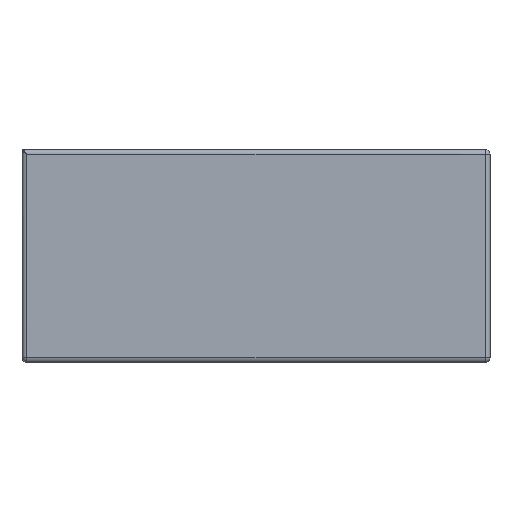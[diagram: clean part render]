
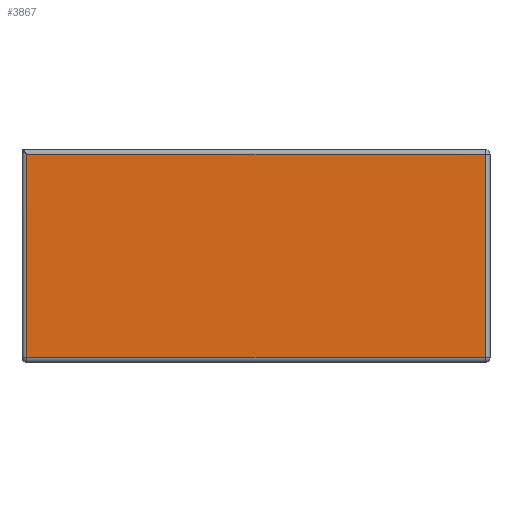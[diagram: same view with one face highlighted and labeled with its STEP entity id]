
A CAD part, left-side view. The second image highlights one B-rep face of the part: STEP entity #3867.
In plain terms, the highlighted planar face has unit normal (-1, 0, 0).
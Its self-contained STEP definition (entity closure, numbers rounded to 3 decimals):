
#9 = CARTESIAN_POINT ( 'NONE',  ( -2.8, -60.3, -76.3 ) ) ;
#296 = CARTESIAN_POINT ( 'NONE',  ( -2.8, 35.3, -76.3 ) ) ;
#422 = ORIENTED_EDGE ( 'NONE', *, *, #1523, .F. ) ;
#519 = ORIENTED_EDGE ( 'NONE', *, *, #2047, .F. ) ;
#638 = CARTESIAN_POINT ( 'NONE',  ( -2.8, 35.3, -33.9 ) ) ;
#654 = PLANE ( 'NONE',  #2831 ) ;
#779 = ORIENTED_EDGE ( 'NONE', *, *, #3563, .F. ) ;
#821 = LINE ( 'NONE', #2548, #1567 ) ;
#915 = VECTOR ( 'NONE', #2949, 1000. ) ;
#1328 = VERTEX_POINT ( 'NONE', #1597 ) ;
#1361 = FACE_OUTER_BOUND ( 'NONE', #2934, .T. ) ;
#1523 = EDGE_CURVE ( 'NONE', #3196, #1328, #2669, .T. ) ;
#1567 = VECTOR ( 'NONE', #2946, 1000. ) ;
#1597 = CARTESIAN_POINT ( 'NONE',  ( -2.8, 35.3, -76.3 ) ) ;
#1636 = DIRECTION ( 'NONE',  ( 0., 0., -1. ) ) ;
#1653 = DIRECTION ( 'NONE',  ( 0., 0., -1. ) ) ;
#1720 = VECTOR ( 'NONE', #1653, 1000. ) ;
#1816 = CARTESIAN_POINT ( 'NONE',  ( -2.8, -60.3, -33.9 ) ) ;
#1951 = CARTESIAN_POINT ( 'NONE',  ( -2.8, 0., -69.2 ) ) ;
#2047 = EDGE_CURVE ( 'NONE', #1328, #2257, #821, .T. ) ;
#2143 = DIRECTION ( 'NONE',  ( 0., -1., 0. ) ) ;
#2254 = ORIENTED_EDGE ( 'NONE', *, *, #3835, .F. ) ;
#2257 = VERTEX_POINT ( 'NONE', #638 ) ;
#2515 = VERTEX_POINT ( 'NONE', #3405 ) ;
#2548 = CARTESIAN_POINT ( 'NONE',  ( -2.8, 35.3, -32.9 ) ) ;
#2599 = LINE ( 'NONE', #9, #1720 ) ;
#2669 = LINE ( 'NONE', #296, #915 ) ;
#2831 = AXIS2_PLACEMENT_3D ( 'NONE', #1951, #3635, #1636 ) ;
#2934 = EDGE_LOOP ( 'NONE', ( #519, #422, #779, #2254 ) ) ;
#2946 = DIRECTION ( 'NONE',  ( 0., 0., 1. ) ) ;
#2949 = DIRECTION ( 'NONE',  ( 0., 1., 0. ) ) ;
#3133 = LINE ( 'NONE', #1816, #4123 ) ;
#3196 = VERTEX_POINT ( 'NONE', #3381 ) ;
#3381 = CARTESIAN_POINT ( 'NONE',  ( -2.8, -60.3, -76.3 ) ) ;
#3405 = CARTESIAN_POINT ( 'NONE',  ( -2.8, -60.3, -33.9 ) ) ;
#3563 = EDGE_CURVE ( 'NONE', #2515, #3196, #2599, .T. ) ;
#3635 = DIRECTION ( 'NONE',  ( -1., 0., 0. ) ) ;
#3835 = EDGE_CURVE ( 'NONE', #2257, #2515, #3133, .T. ) ;
#3867 = ADVANCED_FACE ( 'NONE', ( #1361 ), #654, .T. ) ;
#4123 = VECTOR ( 'NONE', #2143, 1000. ) ;
